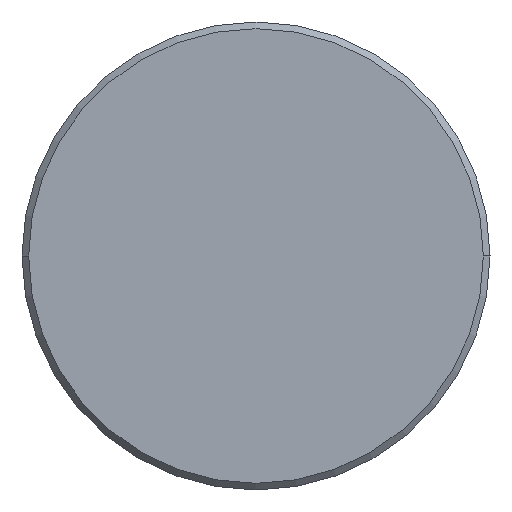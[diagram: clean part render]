
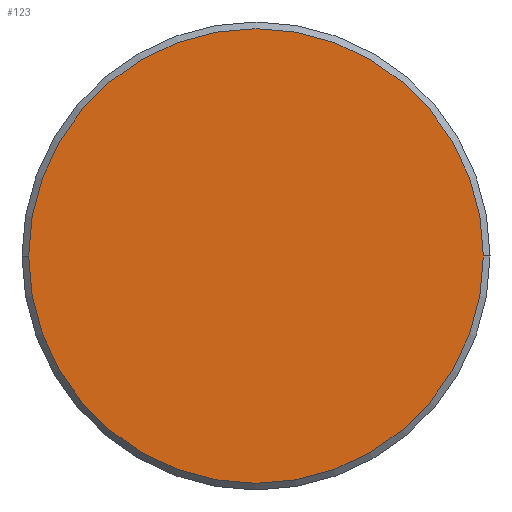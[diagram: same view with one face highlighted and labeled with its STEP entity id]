
A CAD part, left-side view. The second image highlights one B-rep face of the part: STEP entity #123.
In plain terms, the highlighted planar face has unit normal (-1, 0, 0).
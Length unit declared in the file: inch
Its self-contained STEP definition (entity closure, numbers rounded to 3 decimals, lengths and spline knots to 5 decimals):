
#23 = ORIENTED_EDGE ( 'NONE', *, *, #143, .T. ) ;
#42 = DIRECTION ( 'NONE',  ( -1., 0., 0. ) ) ;
#58 = EDGE_CURVE ( 'NONE', #121, #302, #257, .T. ) ;
#69 = CARTESIAN_POINT ( 'NONE',  ( 0., 0., 0. ) ) ;
#89 = AXIS2_PLACEMENT_3D ( 'NONE', #339, #158, #124 ) ;
#114 = ORIENTED_EDGE ( 'NONE', *, *, #58, .T. ) ;
#121 = VERTEX_POINT ( 'NONE', #307 ) ;
#123 = ADVANCED_FACE ( 'NONE', ( #251 ), #155, .T. ) ;
#124 = DIRECTION ( 'NONE',  ( 0., -1., 0. ) ) ;
#129 = EDGE_LOOP ( 'NONE', ( #114, #23 ) ) ;
#143 = EDGE_CURVE ( 'NONE', #302, #121, #221, .T. ) ;
#155 = PLANE ( 'NONE',  #89 ) ;
#158 = DIRECTION ( 'NONE',  ( -1., 0., 0. ) ) ;
#176 = CARTESIAN_POINT ( 'NONE',  ( 0., 0., 0. ) ) ;
#177 = DIRECTION ( 'NONE',  ( 0., -1., 0. ) ) ;
#221 = CIRCLE ( 'NONE', #248, 0.13662 ) ;
#225 = DIRECTION ( 'NONE',  ( 0., -1., 0. ) ) ;
#248 = AXIS2_PLACEMENT_3D ( 'NONE', #69, #376, #225 ) ;
#251 = FACE_OUTER_BOUND ( 'NONE', #129, .T. ) ;
#257 = CIRCLE ( 'NONE', #317, 0.13662 ) ;
#284 = CARTESIAN_POINT ( 'NONE',  ( 0., -0.13662, 0. ) ) ;
#302 = VERTEX_POINT ( 'NONE', #284 ) ;
#307 = CARTESIAN_POINT ( 'NONE',  ( 0., 0.13662, 0. ) ) ;
#317 = AXIS2_PLACEMENT_3D ( 'NONE', #176, #42, #177 ) ;
#339 = CARTESIAN_POINT ( 'NONE',  ( 0., 0., 0. ) ) ;
#376 = DIRECTION ( 'NONE',  ( -1., 0., 0. ) ) ;
